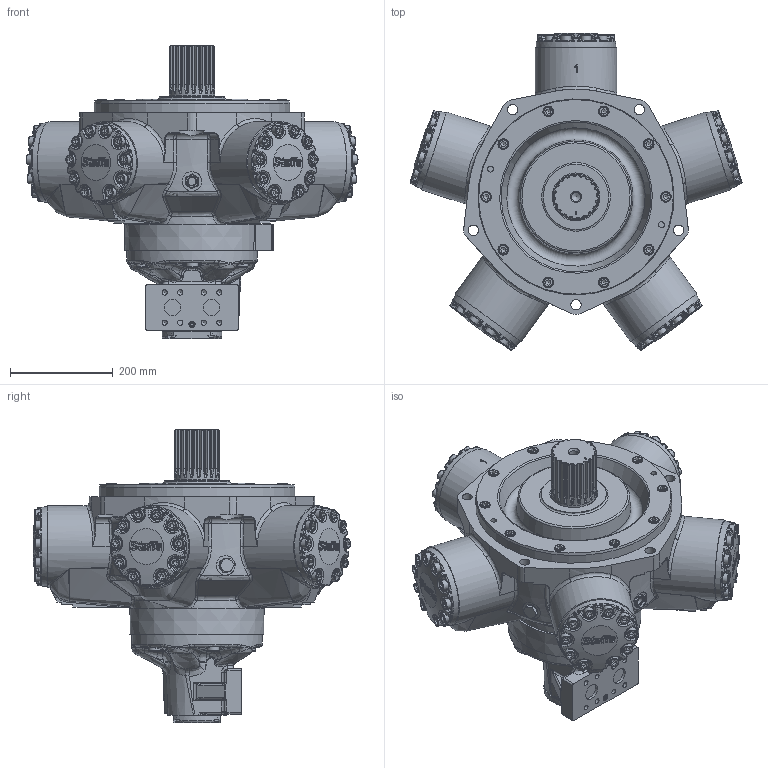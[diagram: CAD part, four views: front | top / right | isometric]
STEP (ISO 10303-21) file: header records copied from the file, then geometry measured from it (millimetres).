
FILE_DESCRIPTION(/* description */ (''),/* implementation_level */ '2;1');
FILE_NAME(/* name */ 'HMC200_S3_SFM3_X_70.stp',/* time_stamp */ '2025-06-23T10:52:46+01:00',/* author */ ('ccallanga'),/* organization */ (''),/* preprocessor_version */ 'ST-DEVELOPER v20',/* originating_system */ 'Autodesk Inventor 2024',/* authorisation */ '');
FILE_SCHEMA (('AUTOMOTIVE_DESIGN { 1 0 10303 214 3 1 1 }'));
Products named in the file (1): 017751 HMC200 Web Assembly_Simplify_1
Bounding box: 645.1 x 616.02 x 569.42 mm (x, y, z)
Volume: 46651109 mm3; surface area: 1225570.2 mm2
Topology: 1 solids, 1 shells, 4815 faces, 11793 edges, 6998 vertices
Faces by surface type: bspline 1820, plane 1213, cylinder 1031, torus 477, cone 159, sphere 115
Full cylindrical faces by diameter (mm): 2.2 x4, 9.4 x1, 10.25 x8, 11.328 x2, 11.445 x2, 11.913 x4, 12 x1, 12.7 x4, 16.51 x1, 17.323 x1, 19.05 x60, 20 x5, 20.637 x60, 23.825 x5, 25.4 x5, 26.92 x2, 32 x2, 38.1 x3, 68.58 x1, 87.889 x1, 88.837 x1, 92.964 x1, 127 x1, 254 x1, 380.91 x1
Entity records: 226980 total; most frequent: CARTESIAN_POINT 122889, ORIENTED_EDGE 23124, DIRECTION 16643, EDGE_CURVE 11562, VERTEX_POINT 6998, AXIS2_PLACEMENT_3D 6606, EDGE_LOOP 5074, STYLED_ITEM 4816
